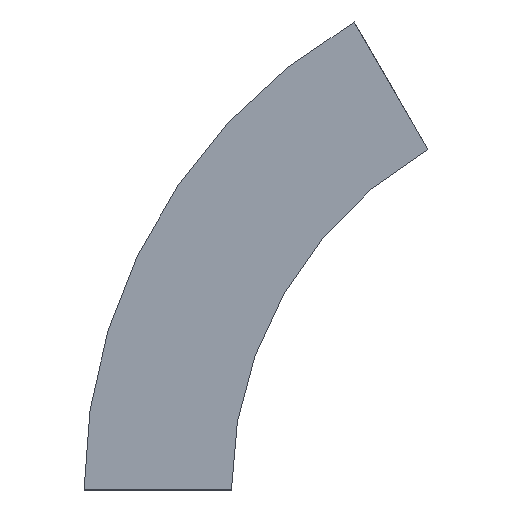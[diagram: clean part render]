
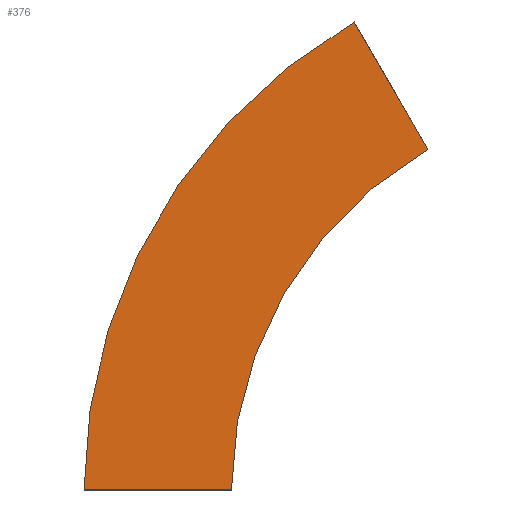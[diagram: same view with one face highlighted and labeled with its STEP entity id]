
A CAD part, left-side view. The second image highlights one B-rep face of the part: STEP entity #376.
In plain terms, the highlighted planar face has unit normal (-1, 0, 0) as drawn and (1, 0, 0) by its records, which use the part's own axes.
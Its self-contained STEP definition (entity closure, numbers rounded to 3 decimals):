
#5 = ORIENTED_EDGE ( 'NONE', *, *, #445, .F. ) ;
#9 = VERTEX_POINT ( 'NONE', #15 ) ;
#15 = CARTESIAN_POINT ( 'NONE',  ( 0., -150., 259.808 ) ) ;
#25 = VECTOR ( 'NONE', #372, 1000. ) ;
#64 = AXIS2_PLACEMENT_3D ( 'NONE', #164, #397, #343 ) ;
#85 = CIRCLE ( 'NONE', #406, 300. ) ;
#100 = CARTESIAN_POINT ( 'NONE',  ( 0., -93.75, 357.235 ) ) ;
#133 = EDGE_CURVE ( 'NONE', #253, #499, #497, .T. ) ;
#155 = CARTESIAN_POINT ( 'NONE',  ( 0., 112.5, 0. ) ) ;
#156 = CARTESIAN_POINT ( 'NONE',  ( 0., 0., 0. ) ) ;
#164 = CARTESIAN_POINT ( 'NONE',  ( 0., -300., 0. ) ) ;
#181 = CARTESIAN_POINT ( 'NONE',  ( 0., -300., 0. ) ) ;
#192 = AXIS2_PLACEMENT_3D ( 'NONE', #156, #333, #286 ) ;
#193 = CARTESIAN_POINT ( 'NONE',  ( 0., 0., 0. ) ) ;
#247 = ORIENTED_EDGE ( 'NONE', *, *, #391, .T. ) ;
#253 = VERTEX_POINT ( 'NONE', #155 ) ;
#269 = ORIENTED_EDGE ( 'NONE', *, *, #434, .F. ) ;
#270 = CARTESIAN_POINT ( 'NONE',  ( 0., -150., 259.808 ) ) ;
#274 = FACE_OUTER_BOUND ( 'NONE', #404, .T. ) ;
#286 = DIRECTION ( 'NONE',  ( 0., 0., -1. ) ) ;
#325 = VERTEX_POINT ( 'NONE', #512 ) ;
#333 = DIRECTION ( 'NONE',  ( 1., 0., 0. ) ) ;
#343 = DIRECTION ( 'NONE',  ( 0., 1., 0. ) ) ;
#372 = DIRECTION ( 'NONE',  ( 0., 1., 0. ) ) ;
#376 = ADVANCED_FACE ( 'NONE', ( #274 ), #565, .T. ) ;
#391 = EDGE_CURVE ( 'NONE', #325, #253, #432, .T. ) ;
#395 = ORIENTED_EDGE ( 'NONE', *, *, #133, .T. ) ;
#397 = DIRECTION ( 'NONE',  ( 1., 0., 0. ) ) ;
#404 = EDGE_LOOP ( 'NONE', ( #395, #269, #5, #247 ) ) ;
#406 = AXIS2_PLACEMENT_3D ( 'NONE', #181, #556, #429 ) ;
#429 = DIRECTION ( 'NONE',  ( 0., 1., 0. ) ) ;
#432 = LINE ( 'NONE', #193, #25 ) ;
#434 = EDGE_CURVE ( 'NONE', #9, #499, #508, .T. ) ;
#445 = EDGE_CURVE ( 'NONE', #325, #9, #85, .T. ) ;
#477 = DIRECTION ( 'NONE',  ( 0., 0.5, 0.866 ) ) ;
#497 = CIRCLE ( 'NONE', #64, 412.5 ) ;
#499 = VERTEX_POINT ( 'NONE', #100 ) ;
#508 = LINE ( 'NONE', #270, #516 ) ;
#512 = CARTESIAN_POINT ( 'NONE',  ( 0., 0., 0. ) ) ;
#516 = VECTOR ( 'NONE', #477, 1000. ) ;
#556 = DIRECTION ( 'NONE',  ( 1., 0., 0. ) ) ;
#565 = PLANE ( 'NONE',  #192 ) ;
